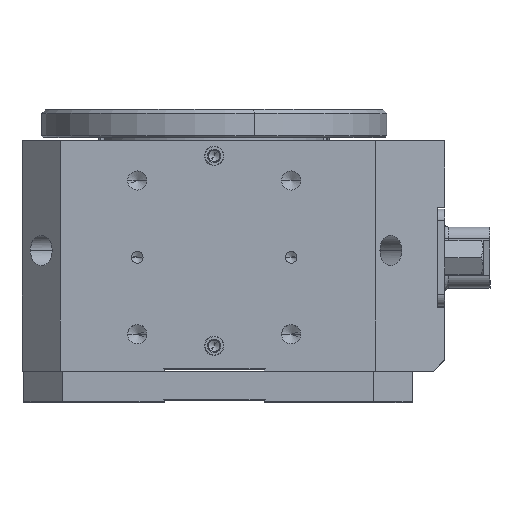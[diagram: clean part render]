
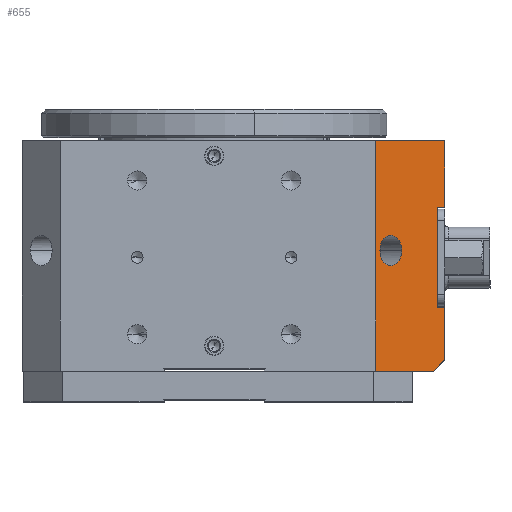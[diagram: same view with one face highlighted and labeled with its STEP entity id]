
A CAD part, top view. The second image highlights one B-rep face of the part: STEP entity #655.
In plain terms, the highlighted planar face has unit normal (0.707, 0, 0.707) as drawn and (0.707, 0, -0.707) by its records, which use the part's own axes.
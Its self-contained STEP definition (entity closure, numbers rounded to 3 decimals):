
#356 = EDGE_CURVE ( 'NONE', #26650, #33349, #14985, .T. ) ;
#571 = ORIENTED_EDGE ( 'NONE', *, *, #10008, .T. ) ;
#655 = ADVANCED_FACE ( 'NONE', ( #4567, #14042 ), #25817, .T. ) ;
#1198 = CARTESIAN_POINT ( 'NONE',  ( 48.02, 15.7, -47.98 ) ) ;
#1849 = CARTESIAN_POINT ( 'NONE',  ( 48.02, 15.7, -47.98 ) ) ;
#2341 = EDGE_CURVE ( 'NONE', #19163, #28486, #11005, .T. ) ;
#2457 = EDGE_LOOP ( 'NONE', ( #3316, #7922, #29054, #17147, #23812, #17616, #20150, #7403, #10705 ) ) ;
#2587 = ORIENTED_EDGE ( 'NONE', *, *, #2341, .T. ) ;
#2678 = AXIS2_PLACEMENT_3D ( 'NONE', #22039, #18241, #14496 ) ;
#2850 = LINE ( 'NONE', #35872, #10335 ) ;
#3215 = CARTESIAN_POINT ( 'NONE',  ( 46.606, 15.7, -49.394 ) ) ;
#3316 = ORIENTED_EDGE ( 'NONE', *, *, #356, .F. ) ;
#3429 = CARTESIAN_POINT ( 'NONE',  ( 41., 21.3, -55. ) ) ;
#4440 = VERTEX_POINT ( 'NONE', #27489 ) ;
#4567 = FACE_OUTER_BOUND ( 'NONE', #2457, .T. ) ;
#4725 = CARTESIAN_POINT ( 'NONE',  ( 42., 21.3, -54. ) ) ;
#5059 = DIRECTION ( 'NONE',  ( -0.707, 0., -0.707 ) ) ;
#5219 = VECTOR ( 'NONE', #24324, 1000. ) ;
#7190 = VERTEX_POINT ( 'NONE', #3429 ) ;
#7403 = ORIENTED_EDGE ( 'NONE', *, *, #30363, .F. ) ;
#7452 = DIRECTION ( 'NONE',  ( 0.707, 0., 0.707 ) ) ;
#7922 = ORIENTED_EDGE ( 'NONE', *, *, #8945, .T. ) ;
#8945 = EDGE_CURVE ( 'NONE', #26650, #10485, #32951, .T. ) ;
#9047 = DIRECTION ( 'NONE',  ( 0., 1., 0. ) ) ;
#10008 = EDGE_CURVE ( 'NONE', #28486, #19163, #35711, .T. ) ;
#10335 = VECTOR ( 'NONE', #32079, 1000. ) ;
#10409 = EDGE_CURVE ( 'NONE', #4440, #16744, #24620, .T. ) ;
#10485 = VERTEX_POINT ( 'NONE', #24830 ) ;
#10705 = ORIENTED_EDGE ( 'NONE', *, *, #10880, .F. ) ;
#10880 = EDGE_CURVE ( 'NONE', #33349, #35913, #16548, .T. ) ;
#11005 = CIRCLE ( 'NONE', #30511, 2. ) ;
#11222 = CARTESIAN_POINT ( 'NONE',  ( 23., 0., -73. ) ) ;
#12820 = CARTESIAN_POINT ( 'NONE',  ( 50., 30., -46. ) ) ;
#13591 = CARTESIAN_POINT ( 'NONE',  ( 50., 30., -46. ) ) ;
#14042 = FACE_BOUND ( 'NONE', #27002, .T. ) ;
#14496 = DIRECTION ( 'NONE',  ( -0.707, 0., -0.707 ) ) ;
#14985 = LINE ( 'NONE', #11222, #29716 ) ;
#15624 = CARTESIAN_POINT ( 'NONE',  ( 50., 30., -46. ) ) ;
#15762 = CARTESIAN_POINT ( 'NONE',  ( 41., 30., -55. ) ) ;
#16507 = VECTOR ( 'NONE', #9047, 1000. ) ;
#16548 = LINE ( 'NONE', #12820, #16507 ) ;
#16744 = VERTEX_POINT ( 'NONE', #4725 ) ;
#17055 = DIRECTION ( 'NONE',  ( 0., 1., 0. ) ) ;
#17147 = ORIENTED_EDGE ( 'NONE', *, *, #26595, .F. ) ;
#17616 = ORIENTED_EDGE ( 'NONE', *, *, #29546, .F. ) ;
#18241 = DIRECTION ( 'NONE',  ( 0.707, 0., -0.707 ) ) ;
#18330 = VECTOR ( 'NONE', #18405, 1000. ) ;
#18405 = DIRECTION ( 'NONE',  ( 0., -1., 0. ) ) ;
#19163 = VERTEX_POINT ( 'NONE', #3215 ) ;
#19395 = LINE ( 'NONE', #15624, #30613 ) ;
#20150 = ORIENTED_EDGE ( 'NONE', *, *, #27558, .F. ) ;
#20229 = CARTESIAN_POINT ( 'NONE',  ( 50., 0., -46. ) ) ;
#20854 = CARTESIAN_POINT ( 'NONE',  ( 42., 30., -54. ) ) ;
#21565 = CARTESIAN_POINT ( 'NONE',  ( 49.434, 15.7, -46.566 ) ) ;
#22039 = CARTESIAN_POINT ( 'NONE',  ( 50., 30., -46. ) ) ;
#22195 = CARTESIAN_POINT ( 'NONE',  ( 41., 0., -55. ) ) ;
#22464 = CARTESIAN_POINT ( 'NONE',  ( 41., 8.3, -55. ) ) ;
#23812 = ORIENTED_EDGE ( 'NONE', *, *, #10409, .T. ) ;
#24324 = DIRECTION ( 'NONE',  ( 0.707, 0., 0.707 ) ) ;
#24620 = LINE ( 'NONE', #20854, #34072 ) ;
#24830 = CARTESIAN_POINT ( 'NONE',  ( 41., 1.5, -55. ) ) ;
#25433 = DIRECTION ( 'NONE',  ( -0.577, 0.577, -0.577 ) ) ;
#25489 = VERTEX_POINT ( 'NONE', #15762 ) ;
#25660 = EDGE_CURVE ( 'NONE', #35973, #10485, #25970, .T. ) ;
#25817 = PLANE ( 'NONE',  #2678 ) ;
#25970 = LINE ( 'NONE', #22195, #18330 ) ;
#26595 = EDGE_CURVE ( 'NONE', #4440, #35973, #35080, .T. ) ;
#26644 = CARTESIAN_POINT ( 'NONE',  ( 42.5, 0., -53.5 ) ) ;
#26650 = VERTEX_POINT ( 'NONE', #26644 ) ;
#27002 = EDGE_LOOP ( 'NONE', ( #2587, #571 ) ) ;
#27370 = VECTOR ( 'NONE', #25433, 1000. ) ;
#27489 = CARTESIAN_POINT ( 'NONE',  ( 42., 8.3, -54. ) ) ;
#27544 = DIRECTION ( 'NONE',  ( -0.707, 0., -0.707 ) ) ;
#27558 = EDGE_CURVE ( 'NONE', #25489, #7190, #2850, .T. ) ;
#28105 = CARTESIAN_POINT ( 'NONE',  ( 50., 21.3, -46. ) ) ;
#28133 = VECTOR ( 'NONE', #27544, 1000. ) ;
#28486 = VERTEX_POINT ( 'NONE', #21565 ) ;
#29054 = ORIENTED_EDGE ( 'NONE', *, *, #25660, .F. ) ;
#29194 = CARTESIAN_POINT ( 'NONE',  ( 37.5, 5., -58.5 ) ) ;
#29546 = EDGE_CURVE ( 'NONE', #7190, #16744, #31833, .T. ) ;
#29716 = VECTOR ( 'NONE', #7452, 1000. ) ;
#30363 = EDGE_CURVE ( 'NONE', #35913, #25489, #19395, .T. ) ;
#30415 = DIRECTION ( 'NONE',  ( 0.707, 0., 0.707 ) ) ;
#30511 = AXIS2_PLACEMENT_3D ( 'NONE', #1198, #34214, #30415 ) ;
#30613 = VECTOR ( 'NONE', #5059, 1000. ) ;
#31058 = DIRECTION ( 'NONE',  ( 0.707, 0., 0.707 ) ) ;
#31288 = CARTESIAN_POINT ( 'NONE',  ( 50., 8.3, -46. ) ) ;
#31833 = LINE ( 'NONE', #28105, #5219 ) ;
#32079 = DIRECTION ( 'NONE',  ( 0., -1., 0. ) ) ;
#32951 = LINE ( 'NONE', #29194, #27370 ) ;
#33349 = VERTEX_POINT ( 'NONE', #20229 ) ;
#34072 = VECTOR ( 'NONE', #17055, 1000. ) ;
#34214 = DIRECTION ( 'NONE',  ( -0.707, 0., 0.707 ) ) ;
#34541 = AXIS2_PLACEMENT_3D ( 'NONE', #1849, #34856, #31058 ) ;
#34856 = DIRECTION ( 'NONE',  ( -0.707, 0., 0.707 ) ) ;
#35080 = LINE ( 'NONE', #31288, #28133 ) ;
#35711 = CIRCLE ( 'NONE', #34541, 2. ) ;
#35872 = CARTESIAN_POINT ( 'NONE',  ( 41., 0., -55. ) ) ;
#35913 = VERTEX_POINT ( 'NONE', #13591 ) ;
#35973 = VERTEX_POINT ( 'NONE', #22464 ) ;
